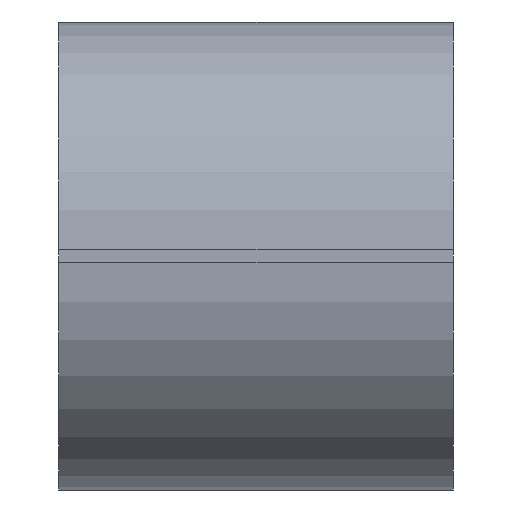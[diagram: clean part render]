
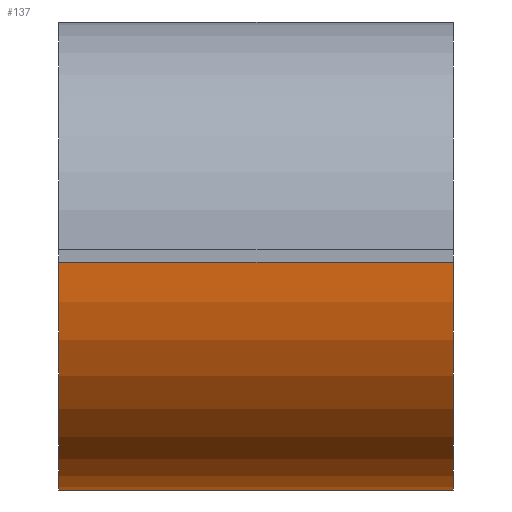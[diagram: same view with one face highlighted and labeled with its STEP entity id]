
A CAD part, left-side view. The second image highlights one B-rep face of the part: STEP entity #137.
In plain terms, the highlighted cylindrical face has radius 1.85 mm (diameter 3.7 mm), a partial arc.
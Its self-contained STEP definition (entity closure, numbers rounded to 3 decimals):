
#21 = EDGE_CURVE('',#22,#24,#26,.T.);
#22 = VERTEX_POINT('',#23);
#23 = CARTESIAN_POINT('',(-21.9,-63.95,19.95));
#24 = VERTEX_POINT('',#25);
#25 = CARTESIAN_POINT('',(-21.9,-60.75,19.95));
#26 = SURFACE_CURVE('',#27,(#31,#43),.PCURVE_S1.);
#27 = LINE('',#28,#29);
#28 = CARTESIAN_POINT('',(-21.9,-63.95,19.95));
#29 = VECTOR('',#30,1.);
#30 = DIRECTION('',(-0.,1.,-0.));
#31 = PCURVE('',#32,#37);
#32 = PLANE('',#33);
#33 = AXIS2_PLACEMENT_3D('',#34,#35,#36);
#34 = CARTESIAN_POINT('',(-21.9,-63.95,19.95));
#35 = DIRECTION('',(1.,0.,-0.));
#36 = DIRECTION('',(0.,0.,1.));
#37 = DEFINITIONAL_REPRESENTATION('',(#38),#42);
#38 = LINE('',#39,#40);
#39 = CARTESIAN_POINT('',(0.,0.));
#40 = VECTOR('',#41,1.);
#41 = DIRECTION('',(0.,-1.));
#42 = ( GEOMETRIC_REPRESENTATION_CONTEXT(2) 
PARAMETRIC_REPRESENTATION_CONTEXT() REPRESENTATION_CONTEXT('2D SPACE',''
  ) );
#43 = PCURVE('',#44,#49);
#44 = CYLINDRICAL_SURFACE('',#45,1.85);
#45 = AXIS2_PLACEMENT_3D('',#46,#47,#48);
#46 = CARTESIAN_POINT('',(-20.05,-63.95,19.95));
#47 = DIRECTION('',(0.,-1.,0.));
#48 = DIRECTION('',(1.,0.,0.));
#49 = DEFINITIONAL_REPRESENTATION('',(#50),#54);
#50 = LINE('',#51,#52);
#51 = CARTESIAN_POINT('',(3.142,0.));
#52 = VECTOR('',#53,1.);
#53 = DIRECTION('',(0.,-1.));
#54 = ( GEOMETRIC_REPRESENTATION_CONTEXT(2) 
PARAMETRIC_REPRESENTATION_CONTEXT() REPRESENTATION_CONTEXT('2D SPACE',''
  ) );
#72 = PLANE('',#73);
#73 = AXIS2_PLACEMENT_3D('',#74,#75,#76);
#74 = CARTESIAN_POINT('',(0.,-60.75,20.));
#75 = DIRECTION('',(0.,-1.,0.));
#76 = DIRECTION('',(1.,0.,0.));
#126 = PLANE('',#127);
#127 = AXIS2_PLACEMENT_3D('',#128,#129,#130);
#128 = CARTESIAN_POINT('',(0.,-63.95,20.));
#129 = DIRECTION('',(0.,-1.,0.));
#130 = DIRECTION('',(1.,0.,0.));
#137 = ADVANCED_FACE('',(#138),#44,.T.);
#138 = FACE_BOUND('',#139,.T.);
#139 = EDGE_LOOP('',(#140,#141,#165,#193));
#140 = ORIENTED_EDGE('',*,*,#21,.T.);
#141 = ORIENTED_EDGE('',*,*,#142,.T.);
#142 = EDGE_CURVE('',#24,#143,#145,.T.);
#143 = VERTEX_POINT('',#144);
#144 = CARTESIAN_POINT('',(-20.05,-60.75,18.1));
#145 = SURFACE_CURVE('',#146,(#151,#158),.PCURVE_S1.);
#146 = CIRCLE('',#147,1.85);
#147 = AXIS2_PLACEMENT_3D('',#148,#149,#150);
#148 = CARTESIAN_POINT('',(-20.05,-60.75,19.95));
#149 = DIRECTION('',(0.,-1.,0.));
#150 = DIRECTION('',(1.,0.,0.));
#151 = PCURVE('',#44,#152);
#152 = DEFINITIONAL_REPRESENTATION('',(#153),#157);
#153 = LINE('',#154,#155);
#154 = CARTESIAN_POINT('',(0.,-3.2));
#155 = VECTOR('',#156,1.);
#156 = DIRECTION('',(1.,0.));
#157 = ( GEOMETRIC_REPRESENTATION_CONTEXT(2) 
PARAMETRIC_REPRESENTATION_CONTEXT() REPRESENTATION_CONTEXT('2D SPACE',''
  ) );
#158 = PCURVE('',#72,#159);
#159 = DEFINITIONAL_REPRESENTATION('',(#160),#164);
#160 = CIRCLE('',#161,1.85);
#161 = AXIS2_PLACEMENT_2D('',#162,#163);
#162 = CARTESIAN_POINT('',(-20.05,-0.05));
#163 = DIRECTION('',(1.,0.));
#164 = ( GEOMETRIC_REPRESENTATION_CONTEXT(2) 
PARAMETRIC_REPRESENTATION_CONTEXT() REPRESENTATION_CONTEXT('2D SPACE',''
  ) );
#165 = ORIENTED_EDGE('',*,*,#166,.F.);
#166 = EDGE_CURVE('',#167,#143,#169,.T.);
#167 = VERTEX_POINT('',#168);
#168 = CARTESIAN_POINT('',(-20.05,-63.95,18.1));
#169 = SURFACE_CURVE('',#170,(#174,#181),.PCURVE_S1.);
#170 = LINE('',#171,#172);
#171 = CARTESIAN_POINT('',(-20.05,-63.95,18.1));
#172 = VECTOR('',#173,1.);
#173 = DIRECTION('',(-0.,1.,-0.));
#174 = PCURVE('',#44,#175);
#175 = DEFINITIONAL_REPRESENTATION('',(#176),#180);
#176 = LINE('',#177,#178);
#177 = CARTESIAN_POINT('',(4.712,0.));
#178 = VECTOR('',#179,1.);
#179 = DIRECTION('',(0.,-1.));
#180 = ( GEOMETRIC_REPRESENTATION_CONTEXT(2) 
PARAMETRIC_REPRESENTATION_CONTEXT() REPRESENTATION_CONTEXT('2D SPACE',''
  ) );
#181 = PCURVE('',#182,#187);
#182 = PLANE('',#183);
#183 = AXIS2_PLACEMENT_3D('',#184,#185,#186);
#184 = CARTESIAN_POINT('',(-20.05,-63.95,18.1));
#185 = DIRECTION('',(0.,0.,-1.));
#186 = DIRECTION('',(1.,0.,0.));
#187 = DEFINITIONAL_REPRESENTATION('',(#188),#192);
#188 = LINE('',#189,#190);
#189 = CARTESIAN_POINT('',(0.,0.));
#190 = VECTOR('',#191,1.);
#191 = DIRECTION('',(0.,-1.));
#192 = ( GEOMETRIC_REPRESENTATION_CONTEXT(2) 
PARAMETRIC_REPRESENTATION_CONTEXT() REPRESENTATION_CONTEXT('2D SPACE',''
  ) );
#193 = ORIENTED_EDGE('',*,*,#194,.F.);
#194 = EDGE_CURVE('',#22,#167,#195,.T.);
#195 = SURFACE_CURVE('',#196,(#201,#208),.PCURVE_S1.);
#196 = CIRCLE('',#197,1.85);
#197 = AXIS2_PLACEMENT_3D('',#198,#199,#200);
#198 = CARTESIAN_POINT('',(-20.05,-63.95,19.95));
#199 = DIRECTION('',(0.,-1.,0.));
#200 = DIRECTION('',(1.,0.,0.));
#201 = PCURVE('',#44,#202);
#202 = DEFINITIONAL_REPRESENTATION('',(#203),#207);
#203 = LINE('',#204,#205);
#204 = CARTESIAN_POINT('',(0.,0.));
#205 = VECTOR('',#206,1.);
#206 = DIRECTION('',(1.,0.));
#207 = ( GEOMETRIC_REPRESENTATION_CONTEXT(2) 
PARAMETRIC_REPRESENTATION_CONTEXT() REPRESENTATION_CONTEXT('2D SPACE',''
  ) );
#208 = PCURVE('',#126,#209);
#209 = DEFINITIONAL_REPRESENTATION('',(#210),#214);
#210 = CIRCLE('',#211,1.85);
#211 = AXIS2_PLACEMENT_2D('',#212,#213);
#212 = CARTESIAN_POINT('',(-20.05,-0.05));
#213 = DIRECTION('',(1.,0.));
#214 = ( GEOMETRIC_REPRESENTATION_CONTEXT(2) 
PARAMETRIC_REPRESENTATION_CONTEXT() REPRESENTATION_CONTEXT('2D SPACE',''
  ) );
